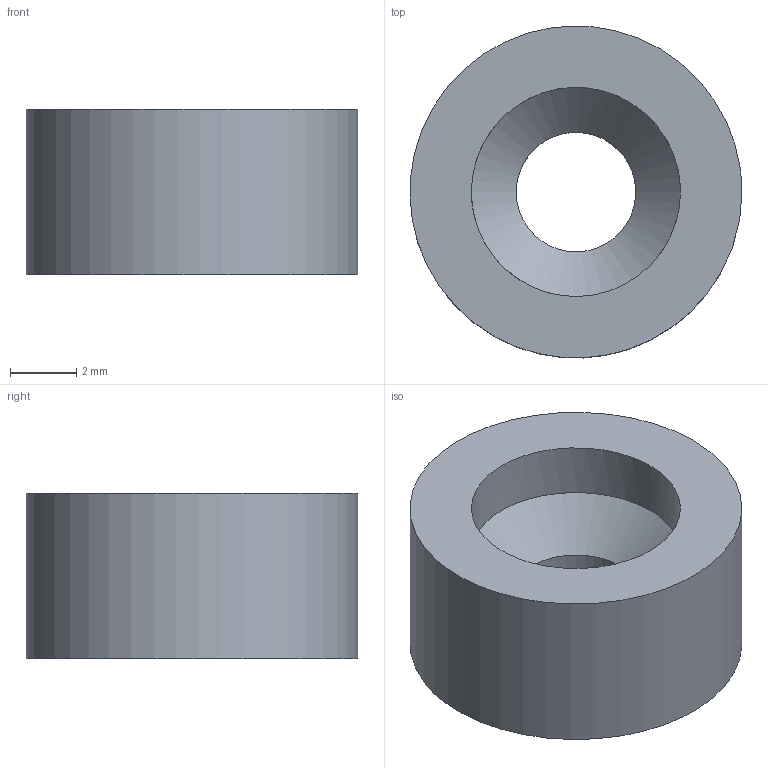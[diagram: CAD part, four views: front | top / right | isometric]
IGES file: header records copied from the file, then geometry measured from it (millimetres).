
Global section: file name: 70.05; native system: Autodesk Inventor 2014; preprocessor: unknown; author: Stefano; date: 20150518.163900; units: millimetre
Bounding box: 10 x 9.99 x 5 mm (x, y, z)
Volume: 294.8 mm3; surface area: 358.1 mm2
Topology: 1 solids, 1 shells, 6 faces, 14 edges, 10 vertices
Faces by surface type: bspline 6
